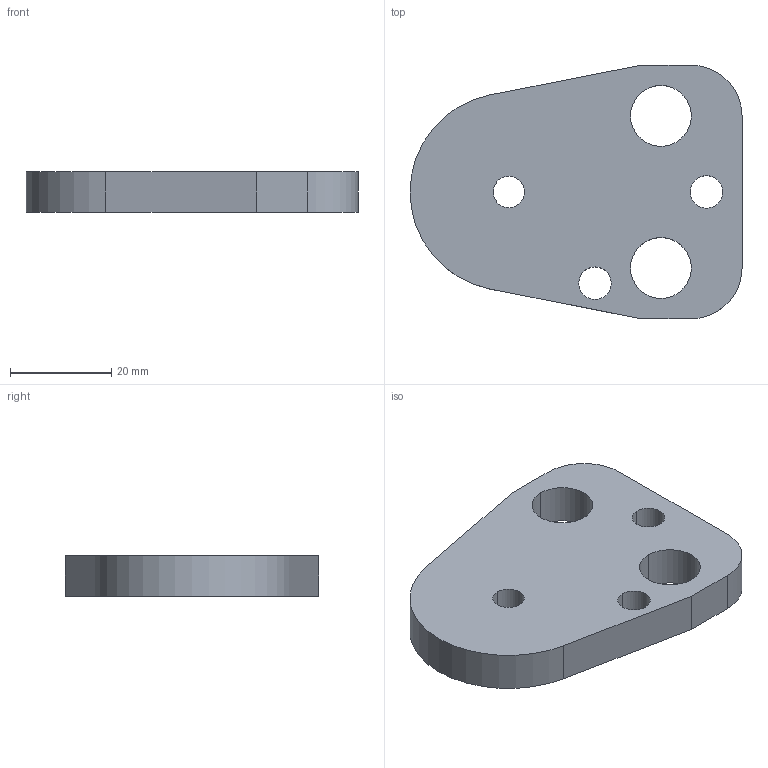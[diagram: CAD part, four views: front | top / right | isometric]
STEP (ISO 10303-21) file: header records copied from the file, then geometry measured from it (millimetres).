
FILE_DESCRIPTION(/* description */ (''),/* implementation_level */ '2;1');
FILE_NAME(/* name */ '3d_bpc25-8_03395_r00.stp',/* time_stamp */ '2011-01-10T14:17:09+09:00',/* author */ ('MISUMI'),/* organization */ (''),/* preprocessor_version */ 'ST-DEVELOPER v11',/* originating_system */ 'UGS - NX 5.0',/* authorisation */ '');
FILE_SCHEMA (('CONFIG_CONTROL_DESIGN'));
Length unit declared in the file: millimetre
Products named in the file (1): 3d_bpc25-8_03395_r00
Bounding box: 65.5 x 50 x 8 mm (x, y, z)
Volume: 19210.8 mm3; surface area: 7449.6 mm2
Topology: 1 solids, 1 shells, 20 faces, 54 edges, 36 vertices
Faces by surface type: cylinder 13, plane 7
Entity records: 750 total; most frequent: DIRECTION 122, CARTESIAN_POINT 111, ORIENTED_EDGE 108, EDGE_CURVE 54, AXIS2_PLACEMENT_3D 47, VERTEX_POINT 36, EDGE_LOOP 30, LINE 28
